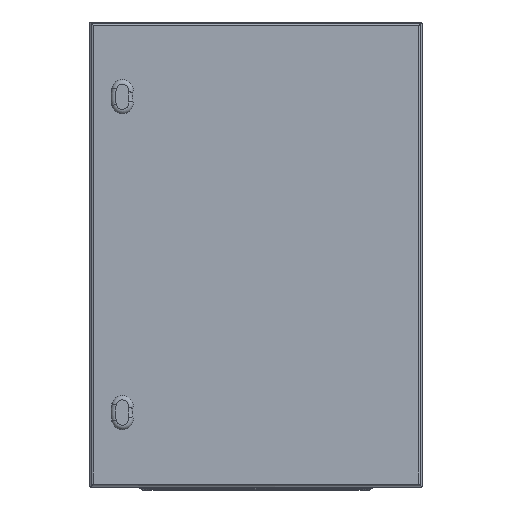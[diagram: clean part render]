
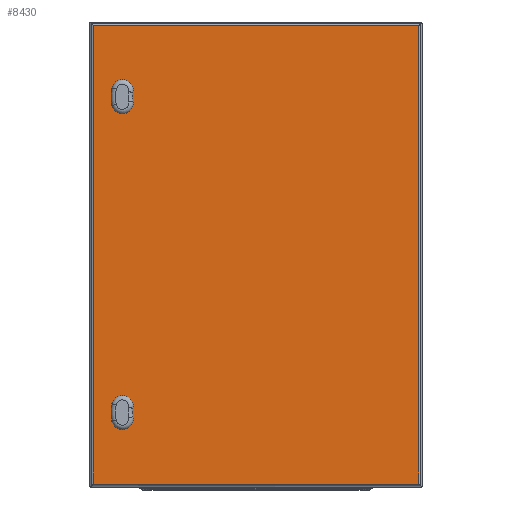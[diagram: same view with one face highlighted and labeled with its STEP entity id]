
A CAD part, front view. The second image highlights one B-rep face of the part: STEP entity #8430.
In plain terms, the highlighted planar face has unit normal (0, -1, 0).
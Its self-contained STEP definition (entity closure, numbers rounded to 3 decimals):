
#568=LINE('',#13597,#1072);
#569=LINE('',#13600,#1073);
#570=LINE('',#13602,#1074);
#571=LINE('',#13604,#1075);
#1072=VECTOR('',#10830,1000.);
#1073=VECTOR('',#10831,1000.);
#1074=VECTOR('',#10832,1000.);
#1075=VECTOR('',#10833,1000.);
#1994=ORIENTED_EDGE('',*,*,#3942,.F.);
#1995=ORIENTED_EDGE('',*,*,#3943,.T.);
#1996=ORIENTED_EDGE('',*,*,#3944,.T.);
#1997=ORIENTED_EDGE('',*,*,#3945,.T.);
#1998=ORIENTED_EDGE('',*,*,#3946,.F.);
#1999=ORIENTED_EDGE('',*,*,#3947,.T.);
#2000=ORIENTED_EDGE('',*,*,#3948,.T.);
#2001=ORIENTED_EDGE('',*,*,#3949,.T.);
#2002=ORIENTED_EDGE('',*,*,#3950,.F.);
#2003=ORIENTED_EDGE('',*,*,#3951,.F.);
#2004=ORIENTED_EDGE('',*,*,#3952,.T.);
#2005=ORIENTED_EDGE('',*,*,#3953,.T.);
#3942=EDGE_CURVE('',#4972,#4973,#5670,.T.);
#3943=EDGE_CURVE('',#4972,#4974,#5671,.T.);
#3944=EDGE_CURVE('',#4974,#4975,#5672,.T.);
#3945=EDGE_CURVE('',#4975,#4973,#5673,.T.);
#3946=EDGE_CURVE('',#4976,#4977,#5674,.T.);
#3947=EDGE_CURVE('',#4976,#4978,#5675,.T.);
#3948=EDGE_CURVE('',#4978,#4979,#5676,.T.);
#3949=EDGE_CURVE('',#4979,#4977,#5677,.T.);
#3950=EDGE_CURVE('',#4980,#4981,#568,.F.);
#3951=EDGE_CURVE('',#4982,#4980,#569,.T.);
#3952=EDGE_CURVE('',#4982,#4983,#570,.F.);
#3953=EDGE_CURVE('',#4983,#4981,#571,.T.);
#4972=VERTEX_POINT('',#13582);
#4973=VERTEX_POINT('',#13583);
#4974=VERTEX_POINT('',#13585);
#4975=VERTEX_POINT('',#13587);
#4976=VERTEX_POINT('',#13590);
#4977=VERTEX_POINT('',#13591);
#4978=VERTEX_POINT('',#13593);
#4979=VERTEX_POINT('',#13595);
#4980=VERTEX_POINT('',#13598);
#4981=VERTEX_POINT('',#13599);
#4982=VERTEX_POINT('',#13601);
#4983=VERTEX_POINT('',#13603);
#5670=CIRCLE('',#9196,34.3);
#5671=CIRCLE('',#9197,16.2);
#5672=CIRCLE('',#9198,60.7);
#5673=CIRCLE('',#9199,16.2);
#5674=CIRCLE('',#9200,34.3);
#5675=CIRCLE('',#9201,16.2);
#5676=CIRCLE('',#9202,60.7);
#5677=CIRCLE('',#9203,16.2);
#6337=EDGE_LOOP('',(#1994,#1995,#1996,#1997));
#6338=EDGE_LOOP('',(#1998,#1999,#2000,#2001));
#6339=EDGE_LOOP('',(#2002,#2003,#2004,#2005));
#7319=FACE_BOUND('',#6337,.T.);
#7320=FACE_BOUND('',#6338,.T.);
#7321=FACE_BOUND('',#6339,.T.);
#8124=PLANE('',#9195);
#8430=ADVANCED_FACE('',(#7319,#7320,#7321),#8124,.F.);
#9195=AXIS2_PLACEMENT_3D('',#13580,#10812,#10813);
#9196=AXIS2_PLACEMENT_3D('',#13581,#10814,#10815);
#9197=AXIS2_PLACEMENT_3D('',#13584,#10816,#10817);
#9198=AXIS2_PLACEMENT_3D('',#13586,#10818,#10819);
#9199=AXIS2_PLACEMENT_3D('',#13588,#10820,#10821);
#9200=AXIS2_PLACEMENT_3D('',#13589,#10822,#10823);
#9201=AXIS2_PLACEMENT_3D('',#13592,#10824,#10825);
#9202=AXIS2_PLACEMENT_3D('',#13594,#10826,#10827);
#9203=AXIS2_PLACEMENT_3D('',#13596,#10828,#10829);
#10812=DIRECTION('',(0.,1.,0.));
#10813=DIRECTION('',(0.,0.,1.));
#10814=DIRECTION('',(0.,1.,0.));
#10815=DIRECTION('',(1.,0.,0.));
#10816=DIRECTION('',(0.,1.,0.));
#10817=DIRECTION('',(1.,0.,0.));
#10818=DIRECTION('',(0.,1.,0.));
#10819=DIRECTION('',(1.,0.,0.));
#10820=DIRECTION('',(0.,1.,0.));
#10821=DIRECTION('',(1.,0.,0.));
#10822=DIRECTION('',(0.,1.,0.));
#10823=DIRECTION('',(1.,0.,0.));
#10824=DIRECTION('',(0.,1.,0.));
#10825=DIRECTION('',(1.,0.,0.));
#10826=DIRECTION('',(0.,1.,0.));
#10827=DIRECTION('',(1.,0.,0.));
#10828=DIRECTION('',(0.,1.,0.));
#10829=DIRECTION('',(1.,0.,0.));
#10830=DIRECTION('',(0.,0.,-1.));
#10831=DIRECTION('',(-1.,0.,0.));
#10832=DIRECTION('',(0.,0.,-1.));
#10833=DIRECTION('',(-1.,0.,0.));
#13580=CARTESIAN_POINT('',(0.,-16.5,0.));
#13581=CARTESIAN_POINT('',(-151.402,-16.5,-237.5));
#13582=CARTESIAN_POINT('',(-185.089,-16.5,-243.952));
#13583=CARTESIAN_POINT('',(-185.089,-16.5,-231.048));
#13584=CARTESIAN_POINT('',(-201.,-16.5,-247.));
#13585=CARTESIAN_POINT('',(-216.827,-16.5,-250.458));
#13586=CARTESIAN_POINT('',(-157.526,-16.5,-237.5));
#13587=CARTESIAN_POINT('',(-216.827,-16.5,-224.542));
#13588=CARTESIAN_POINT('',(-201.,-16.5,-228.));
#13589=CARTESIAN_POINT('',(-151.402,-16.5,237.5));
#13590=CARTESIAN_POINT('',(-185.089,-16.5,231.048));
#13591=CARTESIAN_POINT('',(-185.089,-16.5,243.952));
#13592=CARTESIAN_POINT('',(-201.,-16.5,228.));
#13593=CARTESIAN_POINT('',(-216.827,-16.5,224.542));
#13594=CARTESIAN_POINT('',(-157.526,-16.5,237.5));
#13595=CARTESIAN_POINT('',(-216.827,-16.5,250.458));
#13596=CARTESIAN_POINT('',(-201.,-16.5,247.));
#13597=CARTESIAN_POINT('',(-245.,-16.5,350.));
#13598=CARTESIAN_POINT('',(-245.,-16.5,-345.));
#13599=CARTESIAN_POINT('',(-245.,-16.5,345.));
#13600=CARTESIAN_POINT('',(250.,-16.5,-345.));
#13601=CARTESIAN_POINT('',(245.,-16.5,-345.));
#13602=CARTESIAN_POINT('',(245.,-16.5,350.));
#13603=CARTESIAN_POINT('',(245.,-16.5,345.));
#13604=CARTESIAN_POINT('',(250.,-16.5,345.));
